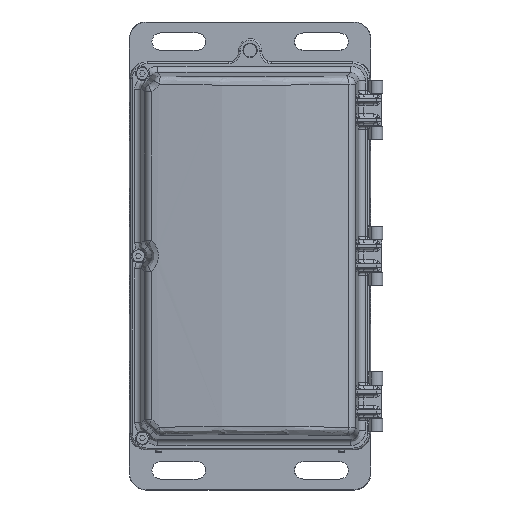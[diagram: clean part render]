
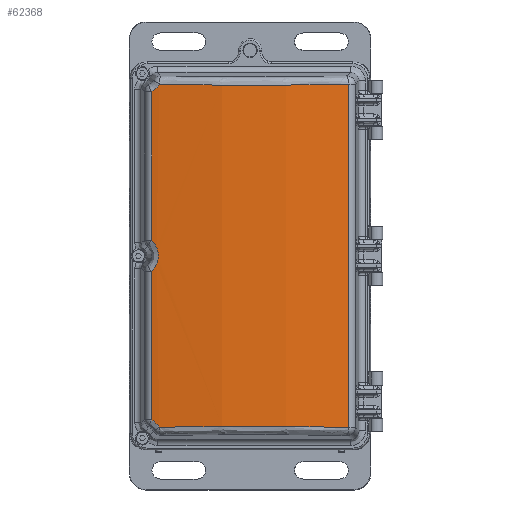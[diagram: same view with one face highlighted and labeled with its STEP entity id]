
A CAD part, top view. The second image highlights one B-rep face of the part: STEP entity #62368.
In plain terms, the highlighted cylindrical face has radius 266.7 mm (diameter 533.4 mm), a partial arc.
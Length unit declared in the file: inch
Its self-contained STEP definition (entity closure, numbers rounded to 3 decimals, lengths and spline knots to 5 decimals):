
#1368=CYLINDRICAL_SURFACE('',#67373,10.5);
#3350=ELLIPSE('',#67369,10.57654,10.5);
#3351=ELLIPSE('',#67370,10.57654,10.5);
#7438=FACE_OUTER_BOUND('',#11329,.T.);
#11329=EDGE_LOOP('',(#55830,#55831,#55832,#55833,#55834,#55835,#55836,#55837));
#17366=LINE('',#111824,#23450);
#17367=LINE('',#111926,#23451);
#17368=LINE('',#111928,#23452);
#23450=VECTOR('',#83226,6.47003);
#23451=VECTOR('',#83233,2.80555);
#23452=VECTOR('',#83236,2.80555);
#24283=B_SPLINE_CURVE_WITH_KNOTS('',3,(#111897,#111898,#111899,#111900),
 .UNSPECIFIED.,.F.,.F.,(4,4),(-7.86371,-7.35272),
 .UNSPECIFIED.);
#24284=B_SPLINE_CURVE_WITH_KNOTS('',3,(#111921,#111922,#111923,#111924),
 .UNSPECIFIED.,.F.,.F.,(4,4),(-8.22096,-7.70998),
 .UNSPECIFIED.);
#24285=B_SPLINE_CURVE_WITH_KNOTS('',3,(#111959,#111960,#111961,#111962,
#111963,#111964),.UNSPECIFIED.,.F.,.F.,(4,1,1,4),(-9.26196,-8.79223,
-8.3225,-7.6179),.UNSPECIFIED.);
#29856=VERTEX_POINT('',#111792);
#29857=VERTEX_POINT('',#111796);
#29858=VERTEX_POINT('',#111800);
#29859=VERTEX_POINT('',#111804);
#29860=VERTEX_POINT('',#111808);
#29861=VERTEX_POINT('',#111812);
#29862=VERTEX_POINT('',#111816);
#29863=VERTEX_POINT('',#111820);
#38532=EDGE_CURVE('',#29863,#29862,#17366,.T.);
#38533=EDGE_CURVE('',#29861,#29863,#3350,.T.);
#38534=EDGE_CURVE('',#29862,#29860,#3351,.T.);
#38535=EDGE_CURVE('',#29859,#29861,#24283,.T.);
#38536=EDGE_CURVE('',#29860,#29858,#24284,.T.);
#38537=EDGE_CURVE('',#29857,#29859,#17367,.T.);
#38538=EDGE_CURVE('',#29858,#29856,#17368,.T.);
#38539=EDGE_CURVE('',#29856,#29857,#24285,.T.);
#55830=ORIENTED_EDGE('',*,*,#38532,.F.);
#55831=ORIENTED_EDGE('',*,*,#38533,.F.);
#55832=ORIENTED_EDGE('',*,*,#38535,.F.);
#55833=ORIENTED_EDGE('',*,*,#38537,.F.);
#55834=ORIENTED_EDGE('',*,*,#38539,.F.);
#55835=ORIENTED_EDGE('',*,*,#38538,.F.);
#55836=ORIENTED_EDGE('',*,*,#38536,.F.);
#55837=ORIENTED_EDGE('',*,*,#38534,.F.);
#62368=ADVANCED_FACE('',(#7438),#1368,.T.);
#67369=AXIS2_PLACEMENT_3D('',#111850,#83227,#83228);
#67370=AXIS2_PLACEMENT_3D('',#111876,#83229,#83230);
#67373=AXIS2_PLACEMENT_3D('',#111965,#83237,#83238);
#83226=DIRECTION('',(0.,-1.,0.));
#83227=DIRECTION('center_axis',(0.,0.993,
0.12));
#83228=DIRECTION('ref_axis',(0.,-0.12,0.993));
#83229=DIRECTION('center_axis',(0.,-0.993,
0.12));
#83230=DIRECTION('ref_axis',(0.,0.12,0.993));
#83233=DIRECTION('',(0.,1.,0.));
#83236=DIRECTION('',(0.,1.,0.));
#83237=DIRECTION('center_axis',(0.,-1.,0.));
#83238=DIRECTION('ref_axis',(-0.188,0.,0.982));
#111792=CARTESIAN_POINT('',(-1.8566,-0.28858,0.959));
#111796=CARTESIAN_POINT('',(-1.8566,0.28858,0.959));
#111800=CARTESIAN_POINT('',(-1.8566,-3.09413,0.959));
#111804=CARTESIAN_POINT('',(-1.8566,3.09413,0.959));
#111808=CARTESIAN_POINT('',(-1.71132,-3.23198,0.98405));
#111812=CARTESIAN_POINT('',(-1.71132,3.23198,0.98405));
#111816=CARTESIAN_POINT('',(1.8566,-3.23501,0.959));
#111820=CARTESIAN_POINT('',(1.8566,3.23501,0.959));
#111824=CARTESIAN_POINT('',(1.8566,0.,0.959));
#111850=CARTESIAN_POINT('Origin',(0.,4.48509,
-9.37556));
#111876=CARTESIAN_POINT('Origin',(0.,-4.48509,
-9.37556));
#111897=CARTESIAN_POINT('Ctrl Pts',(-1.8566,3.09413,0.959));
#111898=CARTESIAN_POINT('Ctrl Pts',(-1.79745,3.12682,
0.96963));
#111899=CARTESIAN_POINT('Ctrl Pts',(-1.74685,3.17478,
0.97818));
#111900=CARTESIAN_POINT('Ctrl Pts',(-1.71132,3.23198,
0.98405));
#111921=CARTESIAN_POINT('Ctrl Pts',(-1.71132,-3.23198,
0.98405));
#111922=CARTESIAN_POINT('Ctrl Pts',(-1.74685,-3.17478,
0.97818));
#111923=CARTESIAN_POINT('Ctrl Pts',(-1.79745,-3.12682,
0.96963));
#111924=CARTESIAN_POINT('Ctrl Pts',(-1.8566,-3.09413,
0.959));
#111926=CARTESIAN_POINT('',(-1.8566,0.,0.959));
#111928=CARTESIAN_POINT('',(-1.8566,0.,0.959));
#111959=CARTESIAN_POINT('Ctrl Pts',(-1.8566,-0.28858,
0.959));
#111960=CARTESIAN_POINT('Ctrl Pts',(-1.81053,-0.24677,
0.96727));
#111961=CARTESIAN_POINT('Ctrl Pts',(-1.73913,-0.14164,
0.97948));
#111962=CARTESIAN_POINT('Ctrl Pts',(-1.71216,0.07992,
0.98387));
#111963=CARTESIAN_POINT('Ctrl Pts',(-1.7875,0.22587,
0.97141));
#111964=CARTESIAN_POINT('Ctrl Pts',(-1.8566,0.28858,
0.959));
#111965=CARTESIAN_POINT('Origin',(0.,0.,-9.37556));
